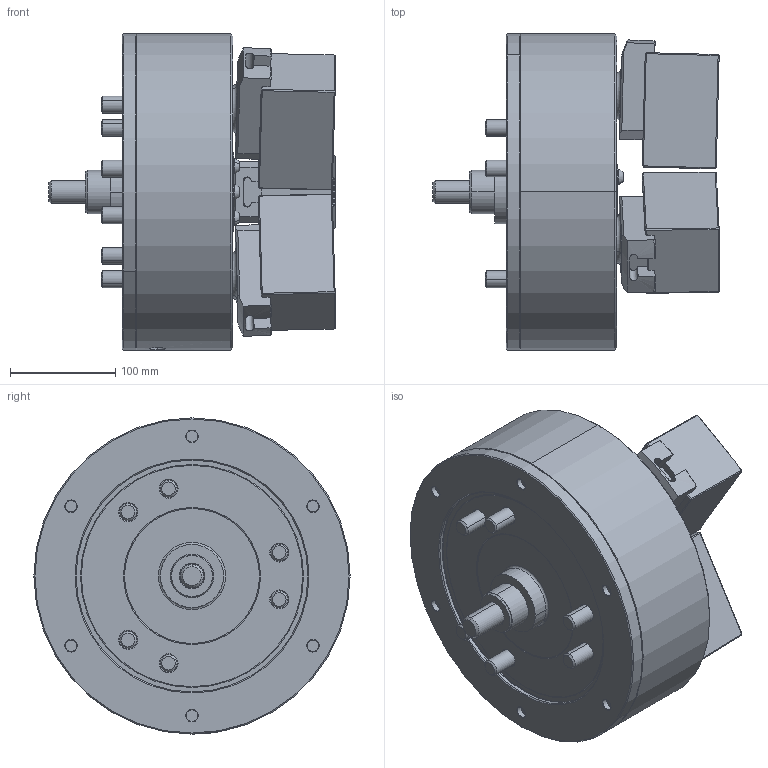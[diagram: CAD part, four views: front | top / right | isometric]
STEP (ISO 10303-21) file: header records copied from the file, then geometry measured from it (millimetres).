
FILE_DESCRIPTION (( 'STEP AP214' ), '1' );
FILE_NAME ('PW-12_OC.STEP', '2025-08-18T07:00:14', ( '' ), ( '' ), 'SwSTEP 2.0', 'SolidWorks 2022', '' );
FILE_SCHEMA (( 'AUTOMOTIVE_DESIGN' ));
Length unit declared in the file: millimetre
Products named in the file (6): 61P420193; 0030116025; PW-12_OC; 0030116105; 結合_OD; 61P323264
Assembly tree (19 placements, depth 2):
  PW-12_OC
    61P323264  x3
    61P420193  x3
    0030116025  x6
    0030116105  x6
    結合_OD
Bounding box: 271.64 x 300 x 300 mm (x, y, z)
Volume: 9048462 mm3; surface area: 609699.4 mm2
Topology: 19 solids, 21 shells, 1626 faces, 4013 edges, 2545 vertices
Faces by surface type: plane 814, cone 334, cylinder 255, bspline 185, torus 36, sphere 2
Entity records: 46826 total; most frequent: CARTESIAN_POINT 17258, ORIENTED_EDGE 6402, DIRECTION 5383, EDGE_CURVE 3201, VERTEX_POINT 2055, AXIS2_PLACEMENT_3D 1799, VECTOR 1785, LINE 1785
